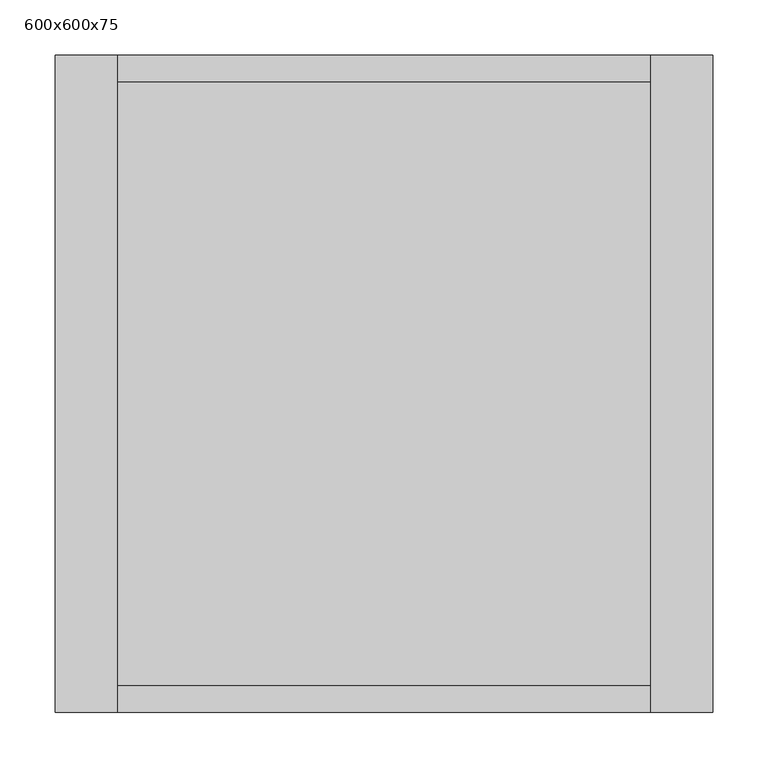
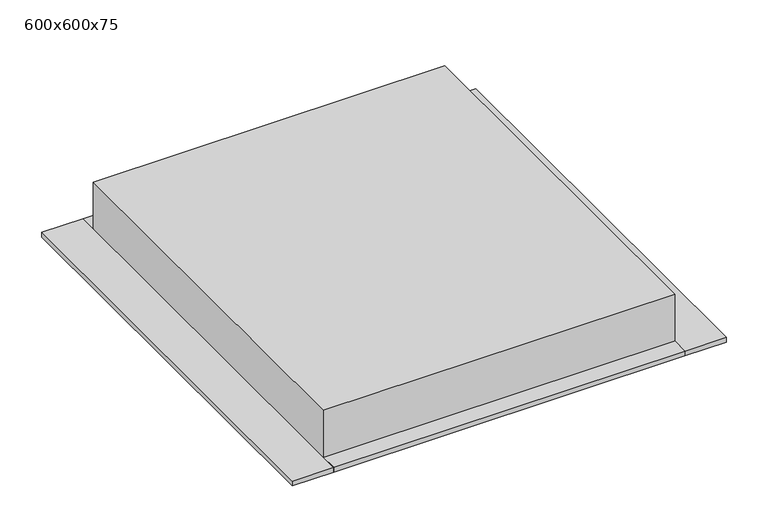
"""IFC4 building model written with IfcOpenShell, lengths in millimetres: light fixture geometry, OWA Lifetime LED : 600x600x75."""

from ifc_helpers import new_model, si_unit, frame, origin, place, context, project, spatial, polyline, outline, extrude, faceted_brep, source, transform, mapped, element, save


def light_fixture_600x600x75_c0c0ac78(model_context):
    return source(origin(), model_context, "Body", "SolidModel", [
        faceted_brep([(241.8, 274.0, 4075.0), (-241.8, 274.0, 4075.0), (-241.8, -274.0, 4075.0), (241.8, -274.0, 4075.0), (219.3, 252.8, 4014.0), (219.3, -252.8, 4014.0), (-219.3, -252.8, 4014.0), (-219.3, 252.8, 4014.0), (241.8, 274.0, 4000.0), (-241.8, 274.0, 4000.0), (-241.8, -274.0, 4000.0), (241.8, -274.0, 4000.0), (219.3, 252.8, 4000.0), (-219.3, 252.8, 4000.0), (-219.3, -252.8, 4000.0), (219.3, -252.8, 4000.0)], [[[0, 1, 2, 3]], [[4, 5, 6, 7]], [[1, 0, 8, 9]], [[2, 1, 9, 10]], [[3, 2, 10, 11]], [[8, 0, 3, 11]], [[8, 11, 10, 9], [12, 13, 14, 15]], [[12, 15, 5, 4]], [[15, 14, 6, 5]], [[14, 13, 7, 6]], [[13, 12, 4, 7]]]),
        extrude(outline(polyline([(219.3, 252.8), (219.3, -252.8), (-219.3, -252.8), (-219.3, 252.8), (219.3, 252.8)])), frame((0.0, 0.0, 4000.0), z_axis=(0.0, 0.0, 1.0), x_axis=(1.0, 0.0, 0.0)), (0.0, 0.0, 1.0), 7.0),
        extrude(outline(polyline([(241.8, 298.5), (241.8, 274.0), (-241.8, 274.0), (-241.8, 298.5), (241.8, 298.5)])), frame((0.0, 0.0, 4000.0), z_axis=(0.0, 0.0, 1.0), x_axis=(1.0, 0.0, 0.0)), (0.0, 0.0, 1.0), 7.0),
        extrude(outline(polyline([(241.8, -298.5), (-241.8, -298.5), (-241.8, -274.0), (241.8, -274.0), (241.8, -298.5)])), frame((0.0, 0.0, 4000.0), z_axis=(0.0, 0.0, 1.0), x_axis=(1.0, 0.0, 0.0)), (0.0, 0.0, 1.0), 7.0),
        extrude(outline(polyline([(-241.8, 298.5), (-241.8, -298.5), (-298.5, -298.5), (-298.5, 298.5), (-241.8, 298.5)])), frame((0.0, 0.0, 4000.0), z_axis=(0.0, 0.0, 1.0), x_axis=(1.0, 0.0, 0.0)), (0.0, 0.0, 1.0), 7.0),
        extrude(outline(polyline([(241.8, 298.5), (298.5, 298.5), (298.5, -298.5), (241.8, -298.5), (241.8, 298.5)])), frame((0.0, 0.0, 4000.0), z_axis=(0.0, 0.0, 1.0), x_axis=(1.0, 0.0, 0.0)), (0.0, 0.0, 1.0), 7.0),
    ])


if __name__ == "__main__":
    model = new_model("IFC4")
    model_context = context("Model", 3, world=origin())
    ifc_project = project(units=[si_unit("LENGTHUNIT", "METRE", prefix="MILLI")], contexts=[model_context])
    site = spatial("IfcSite", under=ifc_project)
    building = spatial("IfcBuilding", under=site)
    placement = place(None, origin())
    light_fixture_600x600x75_shape = light_fixture_600x600x75_c0c0ac78(model_context)
    element("IfcLightFixture", 1, ObjectType="OWA Lifetime LED : 600x600x75", at=placement, inside=building, context=model_context, shape_type="MappedRepresentation", body=[
        mapped(light_fixture_600x600x75_shape, transform((0.0, 0.0, 0.0), x_axis=(1.0, 0.0, 0.0), y_axis=(0.0, 1.0, 0.0), z_axis=(0.0, 0.0, 1.0))),
    ])
    save(model, "model.ifc")
